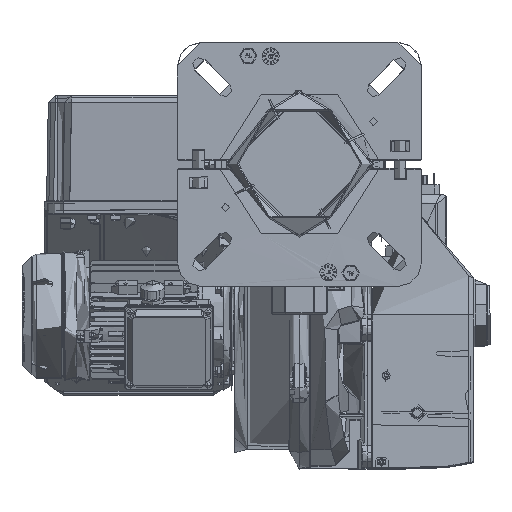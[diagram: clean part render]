
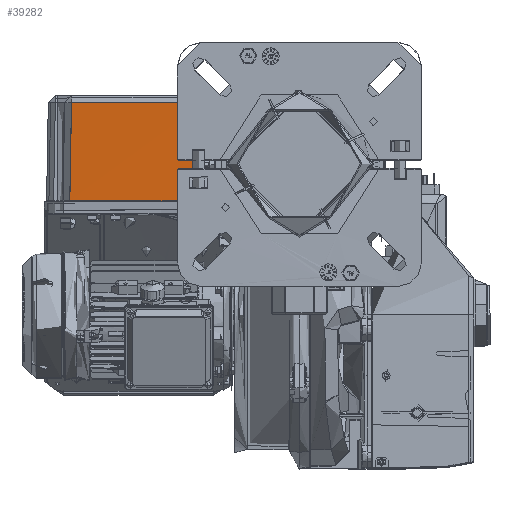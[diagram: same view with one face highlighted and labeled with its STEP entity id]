
A CAD part, top view. The second image highlights one B-rep face of the part: STEP entity #39282.
In plain terms, the highlighted conical face has half-angle 1 degrees and reference radius 626.335 mm.
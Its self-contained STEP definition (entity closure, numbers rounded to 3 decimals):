
#2347 = B_SPLINE_CURVE_WITH_KNOTS ( 'NONE', 3,
 ( #29029, #101450, #269409, #125695 ),
 .UNSPECIFIED., .F., .F.,
 ( 4, 4 ),
 ( 0., 1. ),
 .UNSPECIFIED. ) ;
#9422 = EDGE_CURVE ( 'NONE', #192813, #78829, #194142, .T. ) ;
#16214 = CARTESIAN_POINT ( 'NONE',  ( -100.536, 121.903, 124.358 ) ) ;
#29029 = CARTESIAN_POINT ( 'NONE',  ( -244.789, 121.82, 101.556 ) ) ;
#31882 = ORIENTED_EDGE ( 'NONE', *, *, #9422, .F. ) ;
#39282 = ADVANCED_FACE ( 'NONE', ( #80675 ), #82269, .F. ) ;
#42883 = EDGE_LOOP ( 'NONE', ( #286501, #31882, #164110, #65882 ) ) ;
#50509 = CARTESIAN_POINT ( 'NONE',  ( -102.335, 226.533, 121.576 ) ) ;
#54105 = EDGE_CURVE ( 'NONE', #252960, #280092, #180467, .T. ) ;
#57745 = CARTESIAN_POINT ( 'NONE',  ( -102.335, 226.533, 121.576 ) ) ;
#57821 = CARTESIAN_POINT ( 'NONE',  ( -113.793, 226.522, 118.403 ) ) ;
#58106 = CARTESIAN_POINT ( 'NONE',  ( -136.896, 226.501, 112.708 ) ) ;
#58447 = CARTESIAN_POINT ( 'NONE',  ( -171.975, 226.477, 106.153 ) ) ;
#58744 = CARTESIAN_POINT ( 'NONE',  ( -242.984, 226.452, 99.418 ) ) ;
#59190 = CARTESIAN_POINT ( 'NONE',  ( -231.105, 226.454, 99.922 ) ) ;
#59771 = CARTESIAN_POINT ( 'NONE',  ( -207.371, 226.46, 101.605 ) ) ;
#65882 = ORIENTED_EDGE ( 'NONE', *, *, #54105, .F. ) ;
#70564 = CARTESIAN_POINT ( 'NONE',  ( -244.789, 121.82, 101.556 ) ) ;
#74596 = CARTESIAN_POINT ( 'NONE',  ( -102.185, 217.806, 121.808 ) ) ;
#78829 = VERTEX_POINT ( 'NONE', #302142 ) ;
#80675 = FACE_OUTER_BOUND ( 'NONE', #42883, .T. ) ;
#82269 = CONICAL_SURFACE ( 'NONE', #207410, 626.335, 0.017 ) ;
#90321 = DIRECTION ( 'NONE',  ( 0., 1., -0.004 ) ) ;
#92782 = CARTESIAN_POINT ( 'NONE',  ( -269.5, 228.745, 725.188 ) ) ;
#94121 = DIRECTION ( 'NONE',  ( 0., 0.004, 1. ) ) ;
#98782 = CARTESIAN_POINT ( 'NONE',  ( -101.435, 174.17, 122.967 ) ) ;
#101450 = CARTESIAN_POINT ( 'NONE',  ( -244.187, 156.697, 100.843 ) ) ;
#122983 = CARTESIAN_POINT ( 'NONE',  ( -100.686, 130.598, 124.126 ) ) ;
#125695 = CARTESIAN_POINT ( 'NONE',  ( -242.984, 226.452, 99.418 ) ) ;
#127378 = B_SPLINE_CURVE_WITH_KNOTS ( 'NONE', 3,
 ( #50509, #74596, #242691, #98782, #266762, #122983, #290905 ),
 .UNSPECIFIED., .F., .F.,
 ( 4, 1, 1, 1, 4 ),
 ( 0., 0.25, 0.5, 0.751, 1. ),
 .UNSPECIFIED. ) ;
#153071 = CARTESIAN_POINT ( 'NONE',  ( -244.789, 121.82, 101.556 ) ) ;
#153854 = CARTESIAN_POINT ( 'NONE',  ( -232.602, 121.822, 102.038 ) ) ;
#154091 = CARTESIAN_POINT ( 'NONE',  ( -208.251, 121.828, 103.718 ) ) ;
#154471 = CARTESIAN_POINT ( 'NONE',  ( -171.938, 121.845, 108.372 ) ) ;
#154522 = CARTESIAN_POINT ( 'NONE',  ( -135.96, 121.87, 115.145 ) ) ;
#155528 = CARTESIAN_POINT ( 'NONE',  ( -100.536, 121.903, 124.358 ) ) ;
#155886 = CARTESIAN_POINT ( 'NONE',  ( -112.278, 121.891, 121.058 ) ) ;
#164110 = ORIENTED_EDGE ( 'NONE', *, *, #190376, .F. ) ;
#180467 = B_SPLINE_CURVE_WITH_KNOTS ( 'NONE', 3,
 ( #155528, #155886, #154522, #154471, #154091, #153854, #153071 ),
 .UNSPECIFIED., .F., .F.,
 ( 4, 1, 1, 1, 4 ),
 ( 0., 0.25, 0.5, 0.75, 1. ),
 .UNSPECIFIED. ) ;
#190376 = EDGE_CURVE ( 'NONE', #280092, #192813, #2347, .T. ) ;
#192813 = VERTEX_POINT ( 'NONE', #307477 ) ;
#194142 = B_SPLINE_CURVE_WITH_KNOTS ( 'NONE', 3,
 ( #58744, #59190, #59771, #58447, #58106, #57821, #57745 ),
 .UNSPECIFIED., .F., .F.,
 ( 4, 1, 1, 1, 4 ),
 ( 0., 0.25, 0.5, 0.75, 1. ),
 .UNSPECIFIED. ) ;
#196973 = EDGE_CURVE ( 'NONE', #78829, #252960, #127378, .T. ) ;
#207410 = AXIS2_PLACEMENT_3D ( 'NONE', #92782, #90321, #94121 ) ;
#242691 = CARTESIAN_POINT ( 'NONE',  ( -101.885, 200.352, 122.271 ) ) ;
#252960 = VERTEX_POINT ( 'NONE', #16214 ) ;
#266762 = CARTESIAN_POINT ( 'NONE',  ( -100.985, 148.021, 123.662 ) ) ;
#269409 = CARTESIAN_POINT ( 'NONE',  ( -243.585, 191.575, 100.131 ) ) ;
#280092 = VERTEX_POINT ( 'NONE', #70564 ) ;
#286501 = ORIENTED_EDGE ( 'NONE', *, *, #196973, .F. ) ;
#290905 = CARTESIAN_POINT ( 'NONE',  ( -100.536, 121.903, 124.358 ) ) ;
#302142 = CARTESIAN_POINT ( 'NONE',  ( -102.335, 226.533, 121.576 ) ) ;
#307477 = CARTESIAN_POINT ( 'NONE',  ( -242.984, 226.452, 99.418 ) ) ;
